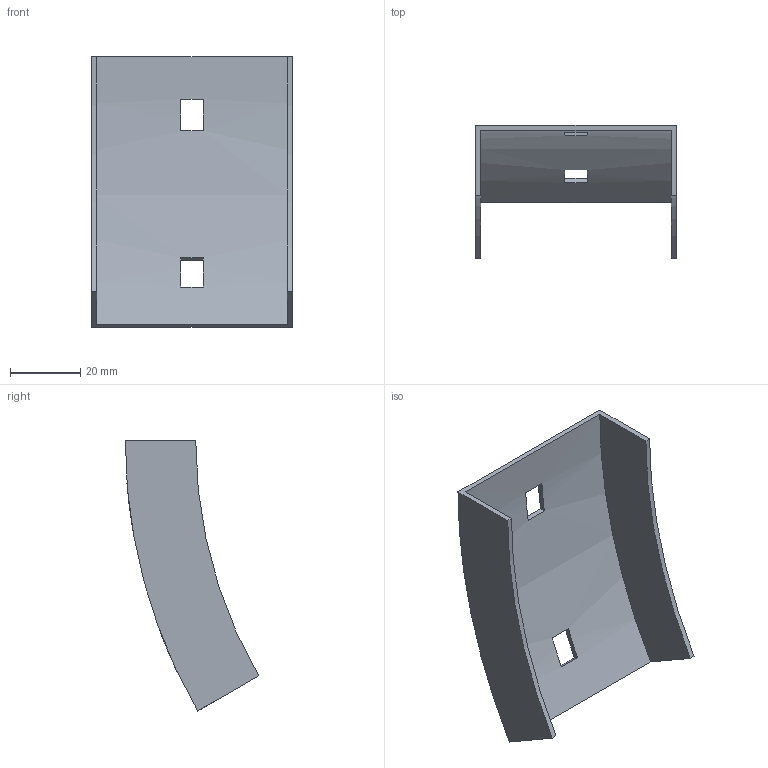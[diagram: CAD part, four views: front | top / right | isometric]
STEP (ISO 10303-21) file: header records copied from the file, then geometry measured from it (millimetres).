
FILE_DESCRIPTION (( 'STEP AP214' ), '1' );
FILE_NAME ('35N1B050.step', '2025-02-21T09:11:43', ( '' ), ( '' ), 'SwSTEP 2.0', 'SolidWorks 2023', '' );
FILE_SCHEMA (( 'AUTOMOTIVE_DESIGN' ));
Length unit declared in the file: millimetre
Products named in the file (1): 35N1B050
Bounding box: 57 x 37.89 x 76.75 mm (x, y, z)
Volume: 10810 mm3; surface area: 14999.8 mm2
Topology: 1 solids, 1 shells, 18 faces, 48 edges, 32 vertices
Faces by surface type: plane 14, cylinder 4
Entity records: 599 total; most frequent: DIRECTION 102, CARTESIAN_POINT 99, ORIENTED_EDGE 96, EDGE_CURVE 48, AXIS2_PLACEMENT_3D 35, VERTEX_POINT 32, VECTOR 32, LINE 32
